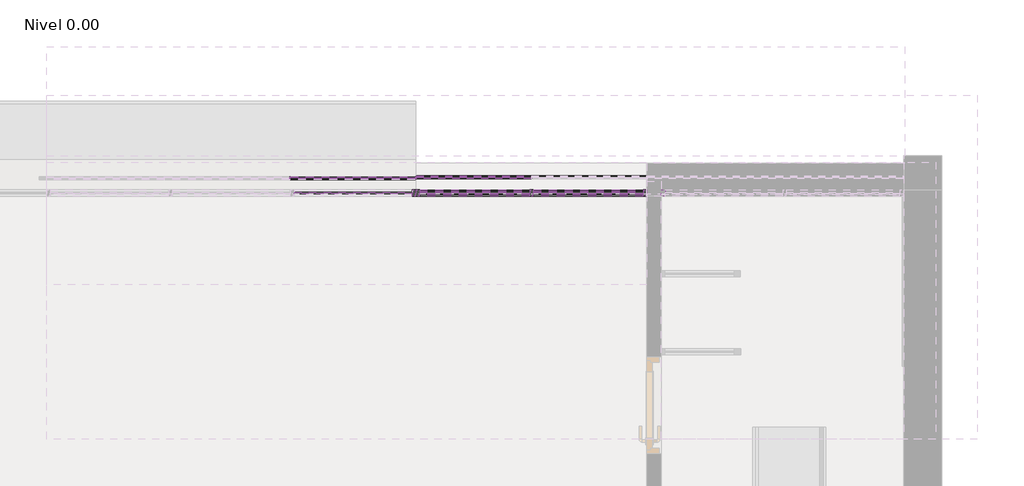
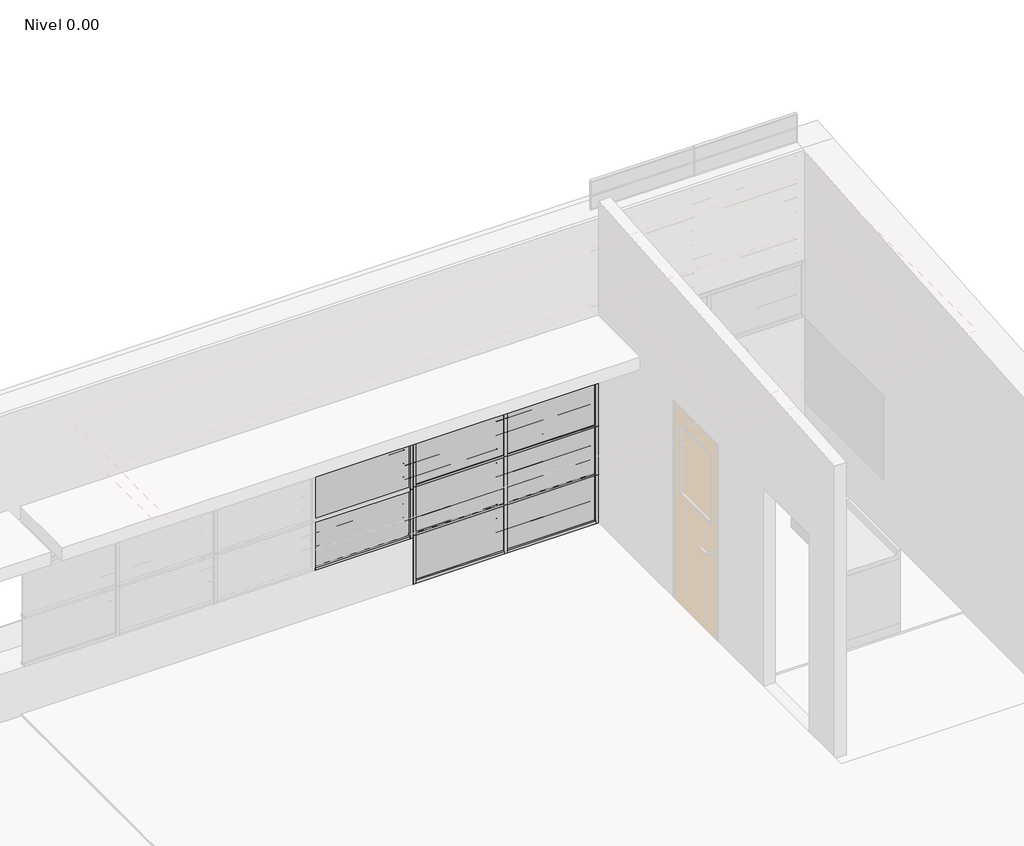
# One storey, part 24 of 27: 97 members, 36 plates.
"""IFC4 building model written with IfcOpenShell, lengths in millimetres."""

from ifc_helpers import new_model, si_unit, origin, place, context, project, spatial, transform, mapped, element, save
from components import circular_mullion_e15963ea, circular_mullion_a09c3154, l_corner_mullion_3f4548f9, l_corner_mullion_0b7e8c85, rectangular_mullion_fd73bc33, rectangular_mullion_62a8ddbd, rectangular_mullion_f7ba8490, rectangular_mullion_d4b77564, rectangular_mullion_f4ea7fa0, rectangular_mullion_bc77bd75, rectangular_mullion_9fa35bb9, rectangular_mullion_4732226b, rectangular_mullion_bccfeea3, rectangular_mullion_d538363a, rectangular_mullion_cc012177, rectangular_mullion_abfcaab6, system_panel_96c10789, system_panel_978f9d48, system_panel_c5bd44f4, system_panel_2c501d8c, system_panel_glazed_57f87d7f, system_panel_glazed_c8de9823, system_panel_glazed_2f7b6a1d, system_panel_glazed_2cc111b0

model = new_model("IFC4")

# Units and contexts
model_context = context("Model", 3, world=origin())
ifc_project = project(units=[si_unit("LENGTHUNIT", "METRE", prefix="MILLI")], contexts=[model_context])

# Site, building, storey
site = spatial("IfcSite", under=ifc_project)
building = spatial("IfcBuilding", under=site)
storey = spatial("IfcBuildingStorey", under=building, Name="Nivel 0.00", Elevation=0.0)

# Members
placement = place(None, origin())
circular_mullion_shape = circular_mullion_e15963ea(model_context)
element("IfcMember", 1, ObjectType="Circular Mullion : ARQ_HERR_16mm", at=placement, inside=storey, context=model_context, shape_type="MappedRepresentation", body=[
    mapped(circular_mullion_shape, transform((12550.7928371, 6959.4460983, 1809.0909091), x_axis=(0.0, 0.0, 1.0), y_axis=(0.0, 1.0, 0.0), z_axis=(-1.0, 0.0, 0.0))),
])
element("IfcMember", 2, ObjectType="Circular Mullion : ARQ_HERR_16mm", at=placement, inside=storey, context=model_context, shape_type="MappedRepresentation", body=[
    mapped(circular_mullion_shape, transform((12550.7928371, 6959.4460983, 1954.5454545), x_axis=(0.0, 0.0, 1.0), y_axis=(0.0, 1.0, 0.0), z_axis=(-1.0, 0.0, 0.0))),
])
circular_mullion_2_shape = circular_mullion_a09c3154(model_context)
element("IfcMember", 3, ObjectType="Circular Mullion : ARQ_HERR_16mm", at=placement, inside=storey, context=model_context, shape_type="MappedRepresentation", body=[
    mapped(circular_mullion_2_shape, transform((14531.9909831, 6959.43912, 150.0), x_axis=(0.0, 0.0, 1.0), y_axis=(0.0, -1.0, 0.0), z_axis=(1.0, 0.0, 0.0))),
])
element("IfcMember", 4, ObjectType="Circular Mullion : ARQ_HERR_16mm", at=placement, inside=storey, context=model_context, shape_type="MappedRepresentation", body=[
    mapped(circular_mullion_2_shape, transform((14531.9909831, 6959.43912, 300.0), x_axis=(0.0, 0.0, 1.0), y_axis=(0.0, -1.0, 0.0), z_axis=(1.0, 0.0, 0.0))),
])
element("IfcMember", 5, ObjectType="Circular Mullion : ARQ_HERR_16mm", at=placement, inside=storey, context=model_context, shape_type="MappedRepresentation", body=[
    mapped(circular_mullion_2_shape, transform((14531.9909831, 6959.43912, 450.0), x_axis=(0.0, 0.0, 1.0), y_axis=(0.0, -1.0, 0.0), z_axis=(1.0, 0.0, 0.0))),
])
element("IfcMember", 6, ObjectType="Circular Mullion : ARQ_HERR_16mm", at=placement, inside=storey, context=model_context, shape_type="MappedRepresentation", body=[
    mapped(circular_mullion_2_shape, transform((14531.9909831, 6959.43912, 600.0), x_axis=(0.0, 0.0, 1.0), y_axis=(0.0, -1.0, 0.0), z_axis=(1.0, 0.0, 0.0))),
])
element("IfcMember", 7, ObjectType="Circular Mullion : ARQ_HERR_16mm", at=placement, inside=storey, context=model_context, shape_type="MappedRepresentation", body=[
    mapped(circular_mullion_2_shape, transform((14531.9909831, 6959.43912, 750.0), x_axis=(0.0, 0.0, 1.0), y_axis=(0.0, -1.0, 0.0), z_axis=(1.0, 0.0, 0.0))),
])
element("IfcMember", 8, ObjectType="Circular Mullion : ARQ_HERR_16mm", at=placement, inside=storey, context=model_context, shape_type="MappedRepresentation", body=[
    mapped(circular_mullion_2_shape, transform((14531.9909831, 6959.43912, 900.0), x_axis=(0.0, 0.0, 1.0), y_axis=(0.0, -1.0, 0.0), z_axis=(1.0, 0.0, 0.0))),
])
element("IfcMember", 9, ObjectType="Circular Mullion : ARQ_HERR_16mm", at=placement, inside=storey, context=model_context, shape_type="MappedRepresentation", body=[
    mapped(circular_mullion_2_shape, transform((14531.9909831, 6959.43912, 1050.0), x_axis=(0.0, 0.0, 1.0), y_axis=(0.0, -1.0, 0.0), z_axis=(1.0, 0.0, 0.0))),
])
element("IfcMember", 10, ObjectType="Circular Mullion : ARQ_HERR_16mm", at=placement, inside=storey, context=model_context, shape_type="MappedRepresentation", body=[
    mapped(circular_mullion_2_shape, transform((14531.9909831, 6959.43912, 1200.0), x_axis=(0.0, 0.0, 1.0), y_axis=(0.0, -1.0, 0.0), z_axis=(1.0, 0.0, 0.0))),
])
element("IfcMember", 11, ObjectType="Circular Mullion : ARQ_HERR_16mm", at=placement, inside=storey, context=model_context, shape_type="MappedRepresentation", body=[
    mapped(circular_mullion_2_shape, transform((14531.9909831, 6959.43912, 1350.0), x_axis=(0.0, 0.0, 1.0), y_axis=(0.0, -1.0, 0.0), z_axis=(1.0, 0.0, 0.0))),
])
element("IfcMember", 12, ObjectType="Circular Mullion : ARQ_HERR_16mm", at=placement, inside=storey, context=model_context, shape_type="MappedRepresentation", body=[
    mapped(circular_mullion_2_shape, transform((14531.9909831, 6959.43912, 1500.0), x_axis=(0.0, 0.0, 1.0), y_axis=(0.0, -1.0, 0.0), z_axis=(1.0, 0.0, 0.0))),
])
element("IfcMember", 13, ObjectType="Circular Mullion : ARQ_HERR_16mm", at=placement, inside=storey, context=model_context, shape_type="MappedRepresentation", body=[
    mapped(circular_mullion_2_shape, transform((14531.9909831, 6959.43912, 1650.0), x_axis=(0.0, 0.0, 1.0), y_axis=(0.0, -1.0, 0.0), z_axis=(1.0, 0.0, 0.0))),
])
element("IfcMember", 14, ObjectType="Circular Mullion : ARQ_HERR_16mm", at=placement, inside=storey, context=model_context, shape_type="MappedRepresentation", body=[
    mapped(circular_mullion_2_shape, transform((14531.9909831, 6959.43912, 1800.0), x_axis=(0.0, 0.0, 1.0), y_axis=(0.0, -1.0, 0.0), z_axis=(1.0, 0.0, 0.0))),
])
element("IfcMember", 15, ObjectType="Circular Mullion : ARQ_HERR_16mm", at=placement, inside=storey, context=model_context, shape_type="MappedRepresentation", body=[
    mapped(circular_mullion_2_shape, transform((14531.9909831, 6959.43912, 1950.0), x_axis=(0.0, 0.0, 1.0), y_axis=(0.0, -1.0, 0.0), z_axis=(1.0, 0.0, 0.0))),
])
l_corner_mullion_shape = l_corner_mullion_3f4548f9(model_context)
element("IfcMember", 16, ObjectType="L Corner Mullion : ARQ_HERR_15X6mm", at=placement, inside=storey, context=model_context, shape_type="MappedRepresentation", body=[
    mapped(l_corner_mullion_shape, transform((13578.7866364, 6959.4460983, 500.0), x_axis=(0.0, 0.0, -1.0), y_axis=(0.0, 1.0, 0.0), z_axis=(1.0, 0.0, 0.0))),
])
l_corner_mullion_2_shape = l_corner_mullion_0b7e8c85(model_context)
element("IfcMember", 17, ObjectType="L Corner Mullion : ARQ_HERR_15X6mm", at=placement, inside=storey, context=model_context, shape_type="MappedRepresentation", body=[
    mapped(l_corner_mullion_2_shape, transform((14531.9909831, 6959.43912, 2100.0), x_axis=(0.0, 0.0, 1.0), y_axis=(0.0, -1.0, 0.0), z_axis=(1.0, 0.0, 0.0))),
])
element("IfcMember", 18, ObjectType="L Corner Mullion : ARQ_HERR_15X6mm", at=placement, inside=storey, context=model_context, shape_type="MappedRepresentation", body=[
    mapped(l_corner_mullion_2_shape, transform((13590.7866364, 6959.43912, 0.0), x_axis=(0.0, 0.0, -1.0), y_axis=(0.0, -1.0, 0.0), z_axis=(-1.0, 0.0, 0.0))),
])
element("IfcMember", 19, ObjectType="L Corner Mullion : ARQ_HERR_15X6mm", at=placement, inside=storey, context=model_context, shape_type="MappedRepresentation", body=[
    mapped(l_corner_mullion_2_shape, transform((14537.9909831, 6959.43912, 0.0), x_axis=(0.0, 0.0, -1.0), y_axis=(0.0, -1.0, 0.0), z_axis=(-1.0, 0.0, 0.0))),
])
rectangular_mullion_shape = rectangular_mullion_fd73bc33(model_context)
element("IfcMember", 20, ObjectType="Rectangular Mullion : ARQ_TV_MULL_50x30mm", at=placement, inside=storey, context=model_context, shape_type="MappedRepresentation", body=[
    mapped(rectangular_mullion_shape, transform((14534.9909831, 6834.4391195, 0.0), x_axis=(-1.0, 0.0, 0.0), y_axis=(0.0, 1.0, 0.0), z_axis=(0.0, 0.0, -1.0))),
])
element("IfcMember", 21, ObjectType="Rectangular Mullion : ARQ_TV_MULL_50x30mm", at=placement, inside=storey, context=model_context, shape_type="MappedRepresentation", body=[
    mapped(rectangular_mullion_shape, transform((14534.9909831, 6834.4391195, 525.0), x_axis=(-1.0, 0.0, 0.0), y_axis=(0.0, 1.0, 0.0), z_axis=(0.0, 0.0, -1.0))),
])
element("IfcMember", 22, ObjectType="Rectangular Mullion : ARQ_TV_MULL_50x30mm", at=placement, inside=storey, context=model_context, shape_type="MappedRepresentation", body=[
    mapped(rectangular_mullion_shape, transform((14534.9909831, 6834.4391195, 1050.0), x_axis=(-1.0, 0.0, 0.0), y_axis=(0.0, 1.0, 0.0), z_axis=(0.0, 0.0, -1.0))),
])
element("IfcMember", 23, ObjectType="Rectangular Mullion : ARQ_TV_MULL_50x30mm", at=placement, inside=storey, context=model_context, shape_type="MappedRepresentation", body=[
    mapped(rectangular_mullion_shape, transform((14534.9909831, 6834.4391195, 1575.0), x_axis=(-1.0, 0.0, 0.0), y_axis=(0.0, 1.0, 0.0), z_axis=(0.0, 0.0, -1.0))),
])
rectangular_mullion_2_shape = rectangular_mullion_62a8ddbd(model_context)
element("IfcMember", 24, ObjectType="Rectangular Mullion : ARQ_TV_MULL_50x30mm", at=placement, inside=storey, context=model_context, shape_type="MappedRepresentation", body=[
    mapped(rectangular_mullion_2_shape, transform((13584.7866364, 6834.4391195, 0.0), x_axis=(-1.0, 0.0, 0.0), y_axis=(0.0, 1.0, 0.0), z_axis=(0.0, 0.0, -1.0))),
])
element("IfcMember", 25, ObjectType="Rectangular Mullion : ARQ_TV_MULL_50x30mm", at=placement, inside=storey, context=model_context, shape_type="MappedRepresentation", body=[
    mapped(rectangular_mullion_2_shape, transform((13584.7866364, 6834.4391195, 525.0), x_axis=(-1.0, 0.0, 0.0), y_axis=(0.0, 1.0, 0.0), z_axis=(0.0, 0.0, -1.0))),
])
element("IfcMember", 26, ObjectType="Rectangular Mullion : ARQ_TV_MULL_50x30mm", at=placement, inside=storey, context=model_context, shape_type="MappedRepresentation", body=[
    mapped(rectangular_mullion_2_shape, transform((13584.7866364, 6834.4391195, 1050.0), x_axis=(-1.0, 0.0, 0.0), y_axis=(0.0, 1.0, 0.0), z_axis=(0.0, 0.0, -1.0))),
])
element("IfcMember", 27, ObjectType="Rectangular Mullion : ARQ_TV_MULL_50x30mm", at=placement, inside=storey, context=model_context, shape_type="MappedRepresentation", body=[
    mapped(rectangular_mullion_2_shape, transform((13584.7866364, 6834.4391195, 1575.0), x_axis=(-1.0, 0.0, 0.0), y_axis=(0.0, 1.0, 0.0), z_axis=(0.0, 0.0, -1.0))),
])
element("IfcMember", 28, ObjectType="Rectangular Mullion : ARQ_TV_MULL_50x30mm", at=placement, inside=storey, context=model_context, shape_type="MappedRepresentation", body=[
    mapped(rectangular_mullion_2_shape, transform((15485.1953298, 6834.4391195, 2100.0), x_axis=(1.0, 0.0, 0.0), y_axis=(0.0, 1.0, 0.0), z_axis=(0.0, 0.0, 1.0))),
])
element("IfcMember", 29, ObjectType="Rectangular Mullion : ARQ_TV_MULL_50x30mm", at=placement, inside=storey, context=model_context, shape_type="MappedRepresentation", body=[
    mapped(rectangular_mullion_2_shape, transform((15485.1953298, 6834.4391195, 525.0), x_axis=(1.0, 0.0, 0.0), y_axis=(0.0, 1.0, 0.0), z_axis=(0.0, 0.0, 1.0))),
])
element("IfcMember", 30, ObjectType="Rectangular Mullion : ARQ_TV_MULL_50x30mm", at=placement, inside=storey, context=model_context, shape_type="MappedRepresentation", body=[
    mapped(rectangular_mullion_2_shape, transform((15485.1953298, 6834.4391195, 1050.0), x_axis=(1.0, 0.0, 0.0), y_axis=(0.0, 1.0, 0.0), z_axis=(0.0, 0.0, 1.0))),
])
element("IfcMember", 31, ObjectType="Rectangular Mullion : ARQ_TV_MULL_50x30mm", at=placement, inside=storey, context=model_context, shape_type="MappedRepresentation", body=[
    mapped(rectangular_mullion_2_shape, transform((15485.1953298, 6834.4391195, 1575.0), x_axis=(1.0, 0.0, 0.0), y_axis=(0.0, 1.0, 0.0), z_axis=(0.0, 0.0, 1.0))),
])
rectangular_mullion_3_shape = rectangular_mullion_f7ba8490(model_context)
element("IfcMember", 32, ObjectType="Rectangular Mullion : ARQ_TV_MULL_50x30mm", at=placement, inside=storey, context=model_context, shape_type="MappedRepresentation", body=[
    mapped(rectangular_mullion_3_shape, transform((13584.7866364, 6834.4391195, 2100.0), x_axis=(1.0, 0.0, 0.0), y_axis=(0.0, 1.0, 0.0), z_axis=(0.0, 0.0, 1.0))),
])
element("IfcMember", 33, ObjectType="Rectangular Mullion : ARQ_TV_MULL_50x30mm", at=placement, inside=storey, context=model_context, shape_type="MappedRepresentation", body=[
    mapped(rectangular_mullion_3_shape, transform((13584.7866364, 6834.4391195, 1033.3333333), x_axis=(1.0, 0.0, 0.0), y_axis=(0.0, 1.0, 0.0), z_axis=(0.0, 0.0, 1.0))),
])
element("IfcMember", 34, ObjectType="Rectangular Mullion : ARQ_TV_MULL_50x30mm", at=placement, inside=storey, context=model_context, shape_type="MappedRepresentation", body=[
    mapped(rectangular_mullion_3_shape, transform((13584.7866364, 6834.4391195, 1566.6666667), x_axis=(1.0, 0.0, 0.0), y_axis=(0.0, 1.0, 0.0), z_axis=(0.0, 0.0, 1.0))),
])
rectangular_mullion_4_shape = rectangular_mullion_d4b77564(model_context)
element("IfcMember", 35, ObjectType="Rectangular Mullion : ARQ_TV_MULL_50x30mm", at=placement, inside=storey, context=model_context, shape_type="MappedRepresentation", body=[
    mapped(rectangular_mullion_4_shape, transform((13554.7866364, 6834.4391195, 500.0), x_axis=(0.0, 0.0, -1.0), y_axis=(0.0, 1.0, 0.0), z_axis=(1.0, 0.0, 0.0))),
])
rectangular_mullion_5_shape = rectangular_mullion_f4ea7fa0(model_context)
element("IfcMember", 36, ObjectType="Rectangular Mullion : ARQ_TV_MULL_50x30mm", at=placement, inside=storey, context=model_context, shape_type="MappedRepresentation", body=[
    mapped(rectangular_mullion_5_shape, transform((15605.1953298, 6834.4391195, 2100.0), x_axis=(-1.0, 0.0, 0.0), y_axis=(0.0, -1.0, 0.0), z_axis=(0.0, 0.0, 1.0))),
])
rectangular_mullion_6_shape = rectangular_mullion_bc77bd75(model_context)
element("IfcMember", 37, ObjectType="Rectangular Mullion : ARQ_HERR_15X6mm", at=placement, inside=storey, context=model_context, shape_type="MappedRepresentation", body=[
    mapped(rectangular_mullion_6_shape, transform((12547.7928371, 6959.4460983, 500.0), x_axis=(-1.0, 0.0, 0.0), y_axis=(0.0, 1.0, 0.0), z_axis=(0.0, 0.0, -1.0))),
])
element("IfcMember", 38, ObjectType="Rectangular Mullion : ARQ_HERR_15X6mm", at=placement, inside=storey, context=model_context, shape_type="MappedRepresentation", body=[
    mapped(rectangular_mullion_6_shape, transform((12547.7928371, 6959.4460983, 645.4545455), x_axis=(-1.0, 0.0, 0.0), y_axis=(0.0, 1.0, 0.0), z_axis=(0.0, 0.0, -1.0))),
])
element("IfcMember", 39, ObjectType="Rectangular Mullion : ARQ_HERR_15X6mm", at=placement, inside=storey, context=model_context, shape_type="MappedRepresentation", body=[
    mapped(rectangular_mullion_6_shape, transform((12547.7928371, 6959.4460983, 790.9090909), x_axis=(-1.0, 0.0, 0.0), y_axis=(0.0, 1.0, 0.0), z_axis=(0.0, 0.0, -1.0))),
])
element("IfcMember", 40, ObjectType="Rectangular Mullion : ARQ_HERR_15X6mm", at=placement, inside=storey, context=model_context, shape_type="MappedRepresentation", body=[
    mapped(rectangular_mullion_6_shape, transform((12547.7928371, 6959.4460983, 936.3636364), x_axis=(-1.0, 0.0, 0.0), y_axis=(0.0, 1.0, 0.0), z_axis=(0.0, 0.0, -1.0))),
])
element("IfcMember", 41, ObjectType="Rectangular Mullion : ARQ_HERR_15X6mm", at=placement, inside=storey, context=model_context, shape_type="MappedRepresentation", body=[
    mapped(rectangular_mullion_6_shape, transform((12547.7928371, 6959.4460983, 1081.8181818), x_axis=(-1.0, 0.0, 0.0), y_axis=(0.0, 1.0, 0.0), z_axis=(0.0, 0.0, -1.0))),
])
element("IfcMember", 42, ObjectType="Rectangular Mullion : ARQ_HERR_15X6mm", at=placement, inside=storey, context=model_context, shape_type="MappedRepresentation", body=[
    mapped(rectangular_mullion_6_shape, transform((12547.7928371, 6959.4460983, 1227.2727273), x_axis=(-1.0, 0.0, 0.0), y_axis=(0.0, 1.0, 0.0), z_axis=(0.0, 0.0, -1.0))),
])
element("IfcMember", 43, ObjectType="Rectangular Mullion : ARQ_HERR_15X6mm", at=placement, inside=storey, context=model_context, shape_type="MappedRepresentation", body=[
    mapped(rectangular_mullion_6_shape, transform((12547.7928371, 6959.4460983, 1372.7272727), x_axis=(-1.0, 0.0, 0.0), y_axis=(0.0, 1.0, 0.0), z_axis=(0.0, 0.0, -1.0))),
])
element("IfcMember", 44, ObjectType="Rectangular Mullion : ARQ_HERR_15X6mm", at=placement, inside=storey, context=model_context, shape_type="MappedRepresentation", body=[
    mapped(rectangular_mullion_6_shape, transform((12547.7928371, 6959.4460983, 1518.1818182), x_axis=(-1.0, 0.0, 0.0), y_axis=(0.0, 1.0, 0.0), z_axis=(0.0, 0.0, -1.0))),
])
element("IfcMember", 45, ObjectType="Rectangular Mullion : ARQ_HERR_15X6mm", at=placement, inside=storey, context=model_context, shape_type="MappedRepresentation", body=[
    mapped(rectangular_mullion_6_shape, transform((12547.7928371, 6959.4460983, 1663.6363636), x_axis=(-1.0, 0.0, 0.0), y_axis=(0.0, 1.0, 0.0), z_axis=(0.0, 0.0, -1.0))),
])
element("IfcMember", 46, ObjectType="Rectangular Mullion : ARQ_HERR_15X6mm", at=placement, inside=storey, context=model_context, shape_type="MappedRepresentation", body=[
    mapped(rectangular_mullion_6_shape, transform((12547.7928371, 6959.4460983, 1809.0909091), x_axis=(-1.0, 0.0, 0.0), y_axis=(0.0, 1.0, 0.0), z_axis=(0.0, 0.0, -1.0))),
])
element("IfcMember", 47, ObjectType="Rectangular Mullion : ARQ_HERR_15X6mm", at=placement, inside=storey, context=model_context, shape_type="MappedRepresentation", body=[
    mapped(rectangular_mullion_6_shape, transform((12547.7928371, 6959.4460983, 1954.5454545), x_axis=(-1.0, 0.0, 0.0), y_axis=(0.0, 1.0, 0.0), z_axis=(0.0, 0.0, -1.0))),
])
rectangular_mullion_7_shape = rectangular_mullion_9fa35bb9(model_context)
element("IfcMember", 48, ObjectType="Rectangular Mullion : ARQ_HERR_15X6mm", at=placement, inside=storey, context=model_context, shape_type="MappedRepresentation", body=[
    mapped(rectangular_mullion_7_shape, transform((13584.7866364, 6959.4460983, 2100.0), x_axis=(1.0, 0.0, 0.0), y_axis=(0.0, 1.0, 0.0), z_axis=(0.0, 0.0, 1.0))),
])
element("IfcMember", 49, ObjectType="Rectangular Mullion : ARQ_HERR_15X6mm", at=placement, inside=storey, context=model_context, shape_type="MappedRepresentation", body=[
    mapped(rectangular_mullion_7_shape, transform((13584.7866364, 6959.4460983, 645.4545455), x_axis=(1.0, 0.0, 0.0), y_axis=(0.0, 1.0, 0.0), z_axis=(0.0, 0.0, 1.0))),
])
element("IfcMember", 50, ObjectType="Rectangular Mullion : ARQ_HERR_15X6mm", at=placement, inside=storey, context=model_context, shape_type="MappedRepresentation", body=[
    mapped(rectangular_mullion_7_shape, transform((13584.7866364, 6959.4460983, 790.9090909), x_axis=(1.0, 0.0, 0.0), y_axis=(0.0, 1.0, 0.0), z_axis=(0.0, 0.0, 1.0))),
])
element("IfcMember", 51, ObjectType="Rectangular Mullion : ARQ_HERR_15X6mm", at=placement, inside=storey, context=model_context, shape_type="MappedRepresentation", body=[
    mapped(rectangular_mullion_7_shape, transform((13584.7866364, 6959.4460983, 936.3636364), x_axis=(1.0, 0.0, 0.0), y_axis=(0.0, 1.0, 0.0), z_axis=(0.0, 0.0, 1.0))),
])
element("IfcMember", 52, ObjectType="Rectangular Mullion : ARQ_HERR_15X6mm", at=placement, inside=storey, context=model_context, shape_type="MappedRepresentation", body=[
    mapped(rectangular_mullion_7_shape, transform((13584.7866364, 6959.4460983, 1081.8181818), x_axis=(1.0, 0.0, 0.0), y_axis=(0.0, 1.0, 0.0), z_axis=(0.0, 0.0, 1.0))),
])
element("IfcMember", 53, ObjectType="Rectangular Mullion : ARQ_HERR_15X6mm", at=placement, inside=storey, context=model_context, shape_type="MappedRepresentation", body=[
    mapped(rectangular_mullion_7_shape, transform((13584.7866364, 6959.4460983, 1227.2727273), x_axis=(1.0, 0.0, 0.0), y_axis=(0.0, 1.0, 0.0), z_axis=(0.0, 0.0, 1.0))),
])
element("IfcMember", 54, ObjectType="Rectangular Mullion : ARQ_HERR_15X6mm", at=placement, inside=storey, context=model_context, shape_type="MappedRepresentation", body=[
    mapped(rectangular_mullion_7_shape, transform((13584.7866364, 6959.4460983, 1372.7272727), x_axis=(1.0, 0.0, 0.0), y_axis=(0.0, 1.0, 0.0), z_axis=(0.0, 0.0, 1.0))),
])
element("IfcMember", 55, ObjectType="Rectangular Mullion : ARQ_HERR_15X6mm", at=placement, inside=storey, context=model_context, shape_type="MappedRepresentation", body=[
    mapped(rectangular_mullion_7_shape, transform((13584.7866364, 6959.4460983, 1518.1818182), x_axis=(1.0, 0.0, 0.0), y_axis=(0.0, 1.0, 0.0), z_axis=(0.0, 0.0, 1.0))),
])
element("IfcMember", 56, ObjectType="Rectangular Mullion : ARQ_HERR_15X6mm", at=placement, inside=storey, context=model_context, shape_type="MappedRepresentation", body=[
    mapped(rectangular_mullion_7_shape, transform((13584.7866364, 6959.4460983, 1663.6363636), x_axis=(1.0, 0.0, 0.0), y_axis=(0.0, 1.0, 0.0), z_axis=(0.0, 0.0, 1.0))),
])
element("IfcMember", 57, ObjectType="Rectangular Mullion : ARQ_HERR_15X6mm", at=placement, inside=storey, context=model_context, shape_type="MappedRepresentation", body=[
    mapped(rectangular_mullion_7_shape, transform((13584.7866364, 6959.4460983, 1809.0909091), x_axis=(1.0, 0.0, 0.0), y_axis=(0.0, 1.0, 0.0), z_axis=(0.0, 0.0, 1.0))),
])
element("IfcMember", 58, ObjectType="Rectangular Mullion : ARQ_HERR_15X6mm", at=placement, inside=storey, context=model_context, shape_type="MappedRepresentation", body=[
    mapped(rectangular_mullion_7_shape, transform((13584.7866364, 6959.4460983, 1954.5454545), x_axis=(1.0, 0.0, 0.0), y_axis=(0.0, 1.0, 0.0), z_axis=(0.0, 0.0, 1.0))),
])
rectangular_mullion_8_shape = rectangular_mullion_4732226b(model_context)
element("IfcMember", 59, ObjectType="Rectangular Mullion : ARQ_HERR_15X6mm", at=placement, inside=storey, context=model_context, shape_type="MappedRepresentation", body=[
    mapped(rectangular_mullion_8_shape, transform((14534.9909831, 6959.43912, 0.0), x_axis=(1.0, 0.0, 0.0), y_axis=(0.0, -1.0, 0.0), z_axis=(0.0, 0.0, -1.0))),
])
element("IfcMember", 60, ObjectType="Rectangular Mullion : ARQ_HERR_15X6mm", at=placement, inside=storey, context=model_context, shape_type="MappedRepresentation", body=[
    mapped(rectangular_mullion_8_shape, transform((14534.9909831, 6959.43912, 150.0), x_axis=(1.0, 0.0, 0.0), y_axis=(0.0, -1.0, 0.0), z_axis=(0.0, 0.0, -1.0))),
])
element("IfcMember", 61, ObjectType="Rectangular Mullion : ARQ_HERR_15X6mm", at=placement, inside=storey, context=model_context, shape_type="MappedRepresentation", body=[
    mapped(rectangular_mullion_8_shape, transform((14534.9909831, 6959.43912, 300.0), x_axis=(1.0, 0.0, 0.0), y_axis=(0.0, -1.0, 0.0), z_axis=(0.0, 0.0, -1.0))),
])
element("IfcMember", 62, ObjectType="Rectangular Mullion : ARQ_HERR_15X6mm", at=placement, inside=storey, context=model_context, shape_type="MappedRepresentation", body=[
    mapped(rectangular_mullion_8_shape, transform((14534.9909831, 6959.43912, 450.0), x_axis=(1.0, 0.0, 0.0), y_axis=(0.0, -1.0, 0.0), z_axis=(0.0, 0.0, -1.0))),
])
element("IfcMember", 63, ObjectType="Rectangular Mullion : ARQ_HERR_15X6mm", at=placement, inside=storey, context=model_context, shape_type="MappedRepresentation", body=[
    mapped(rectangular_mullion_8_shape, transform((14534.9909831, 6959.43912, 600.0), x_axis=(1.0, 0.0, 0.0), y_axis=(0.0, -1.0, 0.0), z_axis=(0.0, 0.0, -1.0))),
])
element("IfcMember", 64, ObjectType="Rectangular Mullion : ARQ_HERR_15X6mm", at=placement, inside=storey, context=model_context, shape_type="MappedRepresentation", body=[
    mapped(rectangular_mullion_8_shape, transform((14534.9909831, 6959.43912, 750.0), x_axis=(1.0, 0.0, 0.0), y_axis=(0.0, -1.0, 0.0), z_axis=(0.0, 0.0, -1.0))),
])
element("IfcMember", 65, ObjectType="Rectangular Mullion : ARQ_HERR_15X6mm", at=placement, inside=storey, context=model_context, shape_type="MappedRepresentation", body=[
    mapped(rectangular_mullion_8_shape, transform((14534.9909831, 6959.43912, 900.0), x_axis=(1.0, 0.0, 0.0), y_axis=(0.0, -1.0, 0.0), z_axis=(0.0, 0.0, -1.0))),
])
element("IfcMember", 66, ObjectType="Rectangular Mullion : ARQ_HERR_15X6mm", at=placement, inside=storey, context=model_context, shape_type="MappedRepresentation", body=[
    mapped(rectangular_mullion_8_shape, transform((14534.9909831, 6959.43912, 1050.0), x_axis=(1.0, 0.0, 0.0), y_axis=(0.0, -1.0, 0.0), z_axis=(0.0, 0.0, -1.0))),
])
element("IfcMember", 67, ObjectType="Rectangular Mullion : ARQ_HERR_15X6mm", at=placement, inside=storey, context=model_context, shape_type="MappedRepresentation", body=[
    mapped(rectangular_mullion_8_shape, transform((14534.9909831, 6959.43912, 1200.0), x_axis=(1.0, 0.0, 0.0), y_axis=(0.0, -1.0, 0.0), z_axis=(0.0, 0.0, -1.0))),
])
element("IfcMember", 68, ObjectType="Rectangular Mullion : ARQ_HERR_15X6mm", at=placement, inside=storey, context=model_context, shape_type="MappedRepresentation", body=[
    mapped(rectangular_mullion_8_shape, transform((14534.9909831, 6959.43912, 1350.0), x_axis=(1.0, 0.0, 0.0), y_axis=(0.0, -1.0, 0.0), z_axis=(0.0, 0.0, -1.0))),
])
element("IfcMember", 69, ObjectType="Rectangular Mullion : ARQ_HERR_15X6mm", at=placement, inside=storey, context=model_context, shape_type="MappedRepresentation", body=[
    mapped(rectangular_mullion_8_shape, transform((14534.9909831, 6959.43912, 1500.0), x_axis=(1.0, 0.0, 0.0), y_axis=(0.0, -1.0, 0.0), z_axis=(0.0, 0.0, -1.0))),
])
element("IfcMember", 70, ObjectType="Rectangular Mullion : ARQ_HERR_15X6mm", at=placement, inside=storey, context=model_context, shape_type="MappedRepresentation", body=[
    mapped(rectangular_mullion_8_shape, transform((14534.9909831, 6959.43912, 1650.0), x_axis=(1.0, 0.0, 0.0), y_axis=(0.0, -1.0, 0.0), z_axis=(0.0, 0.0, -1.0))),
])
element("IfcMember", 71, ObjectType="Rectangular Mullion : ARQ_HERR_15X6mm", at=placement, inside=storey, context=model_context, shape_type="MappedRepresentation", body=[
    mapped(rectangular_mullion_8_shape, transform((14534.9909831, 6959.43912, 1800.0), x_axis=(1.0, 0.0, 0.0), y_axis=(0.0, -1.0, 0.0), z_axis=(0.0, 0.0, -1.0))),
])
element("IfcMember", 72, ObjectType="Rectangular Mullion : ARQ_HERR_15X6mm", at=placement, inside=storey, context=model_context, shape_type="MappedRepresentation", body=[
    mapped(rectangular_mullion_8_shape, transform((14534.9909831, 6959.43912, 1950.0), x_axis=(1.0, 0.0, 0.0), y_axis=(0.0, -1.0, 0.0), z_axis=(0.0, 0.0, -1.0))),
])
rectangular_mullion_9_shape = rectangular_mullion_bccfeea3(model_context)
element("IfcMember", 73, ObjectType="Rectangular Mullion : ARQ_HERR_15X6mm", at=placement, inside=storey, context=model_context, shape_type="MappedRepresentation", body=[
    mapped(rectangular_mullion_9_shape, transform((13584.7866364, 6959.43912, 2100.0), x_axis=(-1.0, 0.0, 0.0), y_axis=(0.0, -1.0, 0.0), z_axis=(0.0, 0.0, 1.0))),
])
element("IfcMember", 74, ObjectType="Rectangular Mullion : ARQ_HERR_15X6mm", at=placement, inside=storey, context=model_context, shape_type="MappedRepresentation", body=[
    mapped(rectangular_mullion_9_shape, transform((13584.7866364, 6959.43912, 150.0), x_axis=(-1.0, 0.0, 0.0), y_axis=(0.0, -1.0, 0.0), z_axis=(0.0, 0.0, 1.0))),
])
element("IfcMember", 75, ObjectType="Rectangular Mullion : ARQ_HERR_15X6mm", at=placement, inside=storey, context=model_context, shape_type="MappedRepresentation", body=[
    mapped(rectangular_mullion_9_shape, transform((13584.7866364, 6959.43912, 300.0), x_axis=(-1.0, 0.0, 0.0), y_axis=(0.0, -1.0, 0.0), z_axis=(0.0, 0.0, 1.0))),
])
element("IfcMember", 76, ObjectType="Rectangular Mullion : ARQ_HERR_15X6mm", at=placement, inside=storey, context=model_context, shape_type="MappedRepresentation", body=[
    mapped(rectangular_mullion_9_shape, transform((13584.7866364, 6959.43912, 450.0), x_axis=(-1.0, 0.0, 0.0), y_axis=(0.0, -1.0, 0.0), z_axis=(0.0, 0.0, 1.0))),
])
element("IfcMember", 77, ObjectType="Rectangular Mullion : ARQ_HERR_15X6mm", at=placement, inside=storey, context=model_context, shape_type="MappedRepresentation", body=[
    mapped(rectangular_mullion_9_shape, transform((13584.7866364, 6959.43912, 600.0), x_axis=(-1.0, 0.0, 0.0), y_axis=(0.0, -1.0, 0.0), z_axis=(0.0, 0.0, 1.0))),
])
element("IfcMember", 78, ObjectType="Rectangular Mullion : ARQ_HERR_15X6mm", at=placement, inside=storey, context=model_context, shape_type="MappedRepresentation", body=[
    mapped(rectangular_mullion_9_shape, transform((13584.7866364, 6959.43912, 750.0), x_axis=(-1.0, 0.0, 0.0), y_axis=(0.0, -1.0, 0.0), z_axis=(0.0, 0.0, 1.0))),
])
element("IfcMember", 79, ObjectType="Rectangular Mullion : ARQ_HERR_15X6mm", at=placement, inside=storey, context=model_context, shape_type="MappedRepresentation", body=[
    mapped(rectangular_mullion_9_shape, transform((13584.7866364, 6959.43912, 900.0), x_axis=(-1.0, 0.0, 0.0), y_axis=(0.0, -1.0, 0.0), z_axis=(0.0, 0.0, 1.0))),
])
element("IfcMember", 80, ObjectType="Rectangular Mullion : ARQ_HERR_15X6mm", at=placement, inside=storey, context=model_context, shape_type="MappedRepresentation", body=[
    mapped(rectangular_mullion_9_shape, transform((13584.7866364, 6959.43912, 1050.0), x_axis=(-1.0, 0.0, 0.0), y_axis=(0.0, -1.0, 0.0), z_axis=(0.0, 0.0, 1.0))),
])
element("IfcMember", 81, ObjectType="Rectangular Mullion : ARQ_HERR_15X6mm", at=placement, inside=storey, context=model_context, shape_type="MappedRepresentation", body=[
    mapped(rectangular_mullion_9_shape, transform((13584.7866364, 6959.43912, 1200.0), x_axis=(-1.0, 0.0, 0.0), y_axis=(0.0, -1.0, 0.0), z_axis=(0.0, 0.0, 1.0))),
])
element("IfcMember", 82, ObjectType="Rectangular Mullion : ARQ_HERR_15X6mm", at=placement, inside=storey, context=model_context, shape_type="MappedRepresentation", body=[
    mapped(rectangular_mullion_9_shape, transform((13584.7866364, 6959.43912, 1350.0), x_axis=(-1.0, 0.0, 0.0), y_axis=(0.0, -1.0, 0.0), z_axis=(0.0, 0.0, 1.0))),
])
element("IfcMember", 83, ObjectType="Rectangular Mullion : ARQ_HERR_15X6mm", at=placement, inside=storey, context=model_context, shape_type="MappedRepresentation", body=[
    mapped(rectangular_mullion_9_shape, transform((13584.7866364, 6959.43912, 1500.0), x_axis=(-1.0, 0.0, 0.0), y_axis=(0.0, -1.0, 0.0), z_axis=(0.0, 0.0, 1.0))),
])
element("IfcMember", 84, ObjectType="Rectangular Mullion : ARQ_HERR_15X6mm", at=placement, inside=storey, context=model_context, shape_type="MappedRepresentation", body=[
    mapped(rectangular_mullion_9_shape, transform((13584.7866364, 6959.43912, 1650.0), x_axis=(-1.0, 0.0, 0.0), y_axis=(0.0, -1.0, 0.0), z_axis=(0.0, 0.0, 1.0))),
])
element("IfcMember", 85, ObjectType="Rectangular Mullion : ARQ_HERR_15X6mm", at=placement, inside=storey, context=model_context, shape_type="MappedRepresentation", body=[
    mapped(rectangular_mullion_9_shape, transform((13584.7866364, 6959.43912, 1800.0), x_axis=(-1.0, 0.0, 0.0), y_axis=(0.0, -1.0, 0.0), z_axis=(0.0, 0.0, 1.0))),
])
element("IfcMember", 86, ObjectType="Rectangular Mullion : ARQ_HERR_15X6mm", at=placement, inside=storey, context=model_context, shape_type="MappedRepresentation", body=[
    mapped(rectangular_mullion_9_shape, transform((13584.7866364, 6959.43912, 1950.0), x_axis=(-1.0, 0.0, 0.0), y_axis=(0.0, -1.0, 0.0), z_axis=(0.0, 0.0, 1.0))),
])
rectangular_mullion_10_shape = rectangular_mullion_d538363a(model_context)
element("IfcMember", 87, ObjectType="Rectangular Mullion : ARQ_TV_MULL_50x30mm", at=placement, inside=storey, context=model_context, shape_type="MappedRepresentation", body=[
    mapped(rectangular_mullion_10_shape, transform((13614.7866364, 6834.4391195, 2100.0), x_axis=(0.0, 0.0, 1.0), y_axis=(0.0, 1.0, 0.0), z_axis=(-1.0, 0.0, 0.0))),
])
element("IfcMember", 88, ObjectType="Rectangular Mullion : ARQ_TV_MULL_50x30mm", at=placement, inside=storey, context=model_context, shape_type="MappedRepresentation", body=[
    mapped(rectangular_mullion_10_shape, transform((14549.9909831, 6834.4391195, 2100.0), x_axis=(0.0, 0.0, 1.0), y_axis=(0.0, 1.0, 0.0), z_axis=(-1.0, 0.0, 0.0))),
])
element("IfcMember", 89, ObjectType="Rectangular Mullion : ARQ_TV_MULL_50x30mm", at=placement, inside=storey, context=model_context, shape_type="MappedRepresentation", body=[
    mapped(rectangular_mullion_10_shape, transform((15455.1953298, 6834.4391195, 0.0), x_axis=(0.0, 0.0, -1.0), y_axis=(0.0, 1.0, 0.0), z_axis=(1.0, 0.0, 0.0))),
])
element("IfcMember", 90, ObjectType="Rectangular Mullion : ARQ_TV_MULL_50x30mm", at=placement, inside=storey, context=model_context, shape_type="MappedRepresentation", body=[
    mapped(rectangular_mullion_10_shape, transform((14519.9909831, 6834.4391195, 0.0), x_axis=(0.0, 0.0, -1.0), y_axis=(0.0, 1.0, 0.0), z_axis=(1.0, 0.0, 0.0))),
])
rectangular_mullion_11_shape = rectangular_mullion_cc012177(model_context)
element("IfcMember", 91, ObjectType="Rectangular Mullion : ARQ_TV_MULL_30x20mm", at=placement, inside=storey, context=model_context, shape_type="MappedRepresentation", body=[
    mapped(rectangular_mullion_11_shape, transform((14549.9909831, 6834.4391195, 525.0), x_axis=(0.0, 0.0, 1.0), y_axis=(0.0, 1.0, 0.0), z_axis=(-1.0, 0.0, 0.0))),
])
element("IfcMember", 92, ObjectType="Rectangular Mullion : ARQ_TV_MULL_30x20mm", at=placement, inside=storey, context=model_context, shape_type="MappedRepresentation", body=[
    mapped(rectangular_mullion_11_shape, transform((13614.7866364, 6834.4391195, 525.0), x_axis=(0.0, 0.0, 1.0), y_axis=(0.0, 1.0, 0.0), z_axis=(-1.0, 0.0, 0.0))),
])
element("IfcMember", 93, ObjectType="Rectangular Mullion : ARQ_TV_MULL_30x20mm", at=placement, inside=storey, context=model_context, shape_type="MappedRepresentation", body=[
    mapped(rectangular_mullion_11_shape, transform((14549.9909831, 6834.4391195, 1050.0), x_axis=(0.0, 0.0, 1.0), y_axis=(0.0, 1.0, 0.0), z_axis=(-1.0, 0.0, 0.0))),
])
element("IfcMember", 94, ObjectType="Rectangular Mullion : ARQ_TV_MULL_30x20mm", at=placement, inside=storey, context=model_context, shape_type="MappedRepresentation", body=[
    mapped(rectangular_mullion_11_shape, transform((13614.7866364, 6834.4391195, 1050.0), x_axis=(0.0, 0.0, 1.0), y_axis=(0.0, 1.0, 0.0), z_axis=(-1.0, 0.0, 0.0))),
])
element("IfcMember", 95, ObjectType="Rectangular Mullion : ARQ_TV_MULL_30x20mm", at=placement, inside=storey, context=model_context, shape_type="MappedRepresentation", body=[
    mapped(rectangular_mullion_11_shape, transform((14549.9909831, 6834.4391195, 1575.0), x_axis=(0.0, 0.0, 1.0), y_axis=(0.0, 1.0, 0.0), z_axis=(-1.0, 0.0, 0.0))),
])
element("IfcMember", 96, ObjectType="Rectangular Mullion : ARQ_TV_MULL_30x20mm", at=placement, inside=storey, context=model_context, shape_type="MappedRepresentation", body=[
    mapped(rectangular_mullion_11_shape, transform((13614.7866364, 6834.4391195, 1575.0), x_axis=(0.0, 0.0, 1.0), y_axis=(0.0, 1.0, 0.0), z_axis=(-1.0, 0.0, 0.0))),
])
rectangular_mullion_12_shape = rectangular_mullion_abfcaab6(model_context)
element("IfcMember", 97, ObjectType="Rectangular Mullion : ARQ_TV_MULL_50x30mm", at=placement, inside=storey, context=model_context, shape_type="MappedRepresentation", body=[
    mapped(rectangular_mullion_12_shape, transform((15635.1953298, 6834.4391195, 1500.0), x_axis=(0.0, 0.0, -1.0), y_axis=(0.0, -1.0, 0.0), z_axis=(-1.0, 0.0, 0.0))),
])

# Plates
system_panel_shape = system_panel_96c10789(model_context)
element("IfcPlate", 98, ObjectType="System Panel : VACÍO", at=placement, inside=storey, context=model_context, shape_type="MappedRepresentation", body=[
    mapped(system_panel_shape, transform((13064.7897368, 6959.4460983, 506.0), x_axis=(-1.0, 0.0, 0.0), y_axis=(0.0, -1.0, 0.0), z_axis=(0.0, 0.0, 1.0))),
])
element("IfcPlate", 99, ObjectType="System Panel : VACÍO", at=placement, inside=storey, context=model_context, shape_type="MappedRepresentation", body=[
    mapped(system_panel_shape, transform((13064.7897368, 6959.4460983, 1962.5454545), x_axis=(-1.0, 0.0, 0.0), y_axis=(0.0, -1.0, 0.0), z_axis=(0.0, 0.0, 1.0))),
])
system_panel_2_shape = system_panel_978f9d48(model_context)
element("IfcPlate", 100, ObjectType="System Panel : VACÍO", at=placement, inside=storey, context=model_context, shape_type="MappedRepresentation", body=[
    mapped(system_panel_2_shape, transform((13064.7897368, 6959.4460983, 653.4545455), x_axis=(-1.0, 0.0, 0.0), y_axis=(0.0, -1.0, 0.0), z_axis=(0.0, 0.0, 1.0))),
])
element("IfcPlate", 101, ObjectType="System Panel : VACÍO", at=placement, inside=storey, context=model_context, shape_type="MappedRepresentation", body=[
    mapped(system_panel_2_shape, transform((13064.7897368, 6959.4460983, 798.9090909), x_axis=(-1.0, 0.0, 0.0), y_axis=(0.0, -1.0, 0.0), z_axis=(0.0, 0.0, 1.0))),
])
element("IfcPlate", 102, ObjectType="System Panel : VACÍO", at=placement, inside=storey, context=model_context, shape_type="MappedRepresentation", body=[
    mapped(system_panel_2_shape, transform((13064.7897368, 6959.4460983, 944.3636364), x_axis=(-1.0, 0.0, 0.0), y_axis=(0.0, -1.0, 0.0), z_axis=(0.0, 0.0, 1.0))),
])
element("IfcPlate", 103, ObjectType="System Panel : VACÍO", at=placement, inside=storey, context=model_context, shape_type="MappedRepresentation", body=[
    mapped(system_panel_2_shape, transform((13064.7897368, 6959.4460983, 1089.8181818), x_axis=(-1.0, 0.0, 0.0), y_axis=(0.0, -1.0, 0.0), z_axis=(0.0, 0.0, 1.0))),
])
element("IfcPlate", 104, ObjectType="System Panel : VACÍO", at=placement, inside=storey, context=model_context, shape_type="MappedRepresentation", body=[
    mapped(system_panel_2_shape, transform((13064.7897368, 6959.4460983, 1235.2727273), x_axis=(-1.0, 0.0, 0.0), y_axis=(0.0, -1.0, 0.0), z_axis=(0.0, 0.0, 1.0))),
])
element("IfcPlate", 105, ObjectType="System Panel : VACÍO", at=placement, inside=storey, context=model_context, shape_type="MappedRepresentation", body=[
    mapped(system_panel_2_shape, transform((13064.7897368, 6959.4460983, 1380.7272727), x_axis=(-1.0, 0.0, 0.0), y_axis=(0.0, -1.0, 0.0), z_axis=(0.0, 0.0, 1.0))),
])
element("IfcPlate", 106, ObjectType="System Panel : VACÍO", at=placement, inside=storey, context=model_context, shape_type="MappedRepresentation", body=[
    mapped(system_panel_2_shape, transform((13064.7897368, 6959.4460983, 1526.1818182), x_axis=(-1.0, 0.0, 0.0), y_axis=(0.0, -1.0, 0.0), z_axis=(0.0, 0.0, 1.0))),
])
element("IfcPlate", 107, ObjectType="System Panel : VACÍO", at=placement, inside=storey, context=model_context, shape_type="MappedRepresentation", body=[
    mapped(system_panel_2_shape, transform((13064.7897368, 6959.4460983, 1671.6363636), x_axis=(-1.0, 0.0, 0.0), y_axis=(0.0, -1.0, 0.0), z_axis=(0.0, 0.0, 1.0))),
])
element("IfcPlate", 108, ObjectType="System Panel : VACÍO", at=placement, inside=storey, context=model_context, shape_type="MappedRepresentation", body=[
    mapped(system_panel_2_shape, transform((13064.7897368, 6959.4460983, 1817.0909091), x_axis=(-1.0, 0.0, 0.0), y_axis=(0.0, -1.0, 0.0), z_axis=(0.0, 0.0, 1.0))),
])
system_panel_3_shape = system_panel_c5bd44f4(model_context)
element("IfcPlate", 109, ObjectType="System Panel : VACÍO", at=placement, inside=storey, context=model_context, shape_type="MappedRepresentation", body=[
    mapped(system_panel_3_shape, transform((14061.3888098, 6959.43912, 6.0), x_axis=(1.0, 0.0, 0.0), y_axis=(0.0, 1.0, 0.0), z_axis=(0.0, 0.0, 1.0))),
])
element("IfcPlate", 110, ObjectType="System Panel : VACÍO", at=placement, inside=storey, context=model_context, shape_type="MappedRepresentation", body=[
    mapped(system_panel_3_shape, transform((14061.3888098, 6959.43912, 1958.0), x_axis=(1.0, 0.0, 0.0), y_axis=(0.0, 1.0, 0.0), z_axis=(0.0, 0.0, 1.0))),
])
system_panel_4_shape = system_panel_2c501d8c(model_context)
element("IfcPlate", 111, ObjectType="System Panel : VACÍO", at=placement, inside=storey, context=model_context, shape_type="MappedRepresentation", body=[
    mapped(system_panel_4_shape, transform((14061.3888098, 6959.43912, 158.0), x_axis=(1.0, 0.0, 0.0), y_axis=(0.0, 1.0, 0.0), z_axis=(0.0, 0.0, 1.0))),
])
element("IfcPlate", 112, ObjectType="System Panel : VACÍO", at=placement, inside=storey, context=model_context, shape_type="MappedRepresentation", body=[
    mapped(system_panel_4_shape, transform((14061.3888098, 6959.43912, 308.0), x_axis=(1.0, 0.0, 0.0), y_axis=(0.0, 1.0, 0.0), z_axis=(0.0, 0.0, 1.0))),
])
element("IfcPlate", 113, ObjectType="System Panel : VACÍO", at=placement, inside=storey, context=model_context, shape_type="MappedRepresentation", body=[
    mapped(system_panel_4_shape, transform((14061.3888098, 6959.43912, 458.0), x_axis=(1.0, 0.0, 0.0), y_axis=(0.0, 1.0, 0.0), z_axis=(0.0, 0.0, 1.0))),
])
element("IfcPlate", 114, ObjectType="System Panel : VACÍO", at=placement, inside=storey, context=model_context, shape_type="MappedRepresentation", body=[
    mapped(system_panel_4_shape, transform((14061.3888098, 6959.43912, 608.0), x_axis=(1.0, 0.0, 0.0), y_axis=(0.0, 1.0, 0.0), z_axis=(0.0, 0.0, 1.0))),
])
element("IfcPlate", 115, ObjectType="System Panel : VACÍO", at=placement, inside=storey, context=model_context, shape_type="MappedRepresentation", body=[
    mapped(system_panel_4_shape, transform((14061.3888098, 6959.43912, 758.0), x_axis=(1.0, 0.0, 0.0), y_axis=(0.0, 1.0, 0.0), z_axis=(0.0, 0.0, 1.0))),
])
element("IfcPlate", 116, ObjectType="System Panel : VACÍO", at=placement, inside=storey, context=model_context, shape_type="MappedRepresentation", body=[
    mapped(system_panel_4_shape, transform((14061.3888098, 6959.43912, 908.0), x_axis=(1.0, 0.0, 0.0), y_axis=(0.0, 1.0, 0.0), z_axis=(0.0, 0.0, 1.0))),
])
element("IfcPlate", 117, ObjectType="System Panel : VACÍO", at=placement, inside=storey, context=model_context, shape_type="MappedRepresentation", body=[
    mapped(system_panel_4_shape, transform((14061.3888098, 6959.43912, 1058.0), x_axis=(1.0, 0.0, 0.0), y_axis=(0.0, 1.0, 0.0), z_axis=(0.0, 0.0, 1.0))),
])
element("IfcPlate", 118, ObjectType="System Panel : VACÍO", at=placement, inside=storey, context=model_context, shape_type="MappedRepresentation", body=[
    mapped(system_panel_4_shape, transform((14061.3888098, 6959.43912, 1208.0), x_axis=(1.0, 0.0, 0.0), y_axis=(0.0, 1.0, 0.0), z_axis=(0.0, 0.0, 1.0))),
])
element("IfcPlate", 119, ObjectType="System Panel : VACÍO", at=placement, inside=storey, context=model_context, shape_type="MappedRepresentation", body=[
    mapped(system_panel_4_shape, transform((14061.3888098, 6959.43912, 1358.0), x_axis=(1.0, 0.0, 0.0), y_axis=(0.0, 1.0, 0.0), z_axis=(0.0, 0.0, 1.0))),
])
element("IfcPlate", 120, ObjectType="System Panel : VACÍO", at=placement, inside=storey, context=model_context, shape_type="MappedRepresentation", body=[
    mapped(system_panel_4_shape, transform((14061.3888098, 6959.43912, 1508.0), x_axis=(1.0, 0.0, 0.0), y_axis=(0.0, 1.0, 0.0), z_axis=(0.0, 0.0, 1.0))),
])
element("IfcPlate", 121, ObjectType="System Panel : VACÍO", at=placement, inside=storey, context=model_context, shape_type="MappedRepresentation", body=[
    mapped(system_panel_4_shape, transform((14061.3888098, 6959.43912, 1658.0), x_axis=(1.0, 0.0, 0.0), y_axis=(0.0, 1.0, 0.0), z_axis=(0.0, 0.0, 1.0))),
])
element("IfcPlate", 122, ObjectType="System Panel : VACÍO", at=placement, inside=storey, context=model_context, shape_type="MappedRepresentation", body=[
    mapped(system_panel_4_shape, transform((14061.3888098, 6959.43912, 1808.0), x_axis=(1.0, 0.0, 0.0), y_axis=(0.0, 1.0, 0.0), z_axis=(0.0, 0.0, 1.0))),
])
system_panel_glazed_shape = system_panel_glazed_57f87d7f(model_context)
element("IfcPlate", 123, ObjectType="System Panel : Glazed", at=placement, inside=storey, context=model_context, shape_type="MappedRepresentation", body=[
    mapped(system_panel_glazed_shape, transform((13068.4829041, 6834.4391195, 530.0), x_axis=(-1.0, 0.0, 0.0), y_axis=(0.0, -1.0, 0.0), z_axis=(0.0, 0.0, 1.0))),
])
element("IfcPlate", 124, ObjectType="System Panel : Glazed", at=placement, inside=storey, context=model_context, shape_type="MappedRepresentation", body=[
    mapped(system_panel_glazed_shape, transform((13068.4829041, 6834.4391195, 1581.6666667), x_axis=(-1.0, 0.0, 0.0), y_axis=(0.0, -1.0, 0.0), z_axis=(0.0, 0.0, 1.0))),
])
system_panel_glazed_2_shape = system_panel_glazed_c8de9823(model_context)
element("IfcPlate", 125, ObjectType="System Panel : Glazed", at=placement, inside=storey, context=model_context, shape_type="MappedRepresentation", body=[
    mapped(system_panel_glazed_2_shape, transform((13068.4829041, 6834.4391195, 1048.3333333), x_axis=(-1.0, 0.0, 0.0), y_axis=(0.0, -1.0, 0.0), z_axis=(0.0, 0.0, 1.0))),
])
system_panel_glazed_3_shape = system_panel_glazed_2f7b6a1d(model_context)
element("IfcPlate", 126, ObjectType="System Panel : Glazed", at=placement, inside=storey, context=model_context, shape_type="MappedRepresentation", body=[
    mapped(system_panel_glazed_3_shape, transform((15002.5931564, 6834.4391195, 30.0), x_axis=(-1.0, 0.0, 0.0), y_axis=(0.0, -1.0, 0.0), z_axis=(0.0, 0.0, 1.0))),
])
element("IfcPlate", 127, ObjectType="System Panel : Glazed", at=placement, inside=storey, context=model_context, shape_type="MappedRepresentation", body=[
    mapped(system_panel_glazed_3_shape, transform((14067.3888098, 6834.4391195, 30.0), x_axis=(-1.0, 0.0, 0.0), y_axis=(0.0, -1.0, 0.0), z_axis=(0.0, 0.0, 1.0))),
])
element("IfcPlate", 128, ObjectType="System Panel : Glazed", at=placement, inside=storey, context=model_context, shape_type="MappedRepresentation", body=[
    mapped(system_panel_glazed_3_shape, transform((15002.5931564, 6834.4391195, 1585.0), x_axis=(-1.0, 0.0, 0.0), y_axis=(0.0, -1.0, 0.0), z_axis=(0.0, 0.0, 1.0))),
])
element("IfcPlate", 129, ObjectType="System Panel : Glazed", at=placement, inside=storey, context=model_context, shape_type="MappedRepresentation", body=[
    mapped(system_panel_glazed_3_shape, transform((14067.3888098, 6834.4391195, 1585.0), x_axis=(-1.0, 0.0, 0.0), y_axis=(0.0, -1.0, 0.0), z_axis=(0.0, 0.0, 1.0))),
])
system_panel_glazed_4_shape = system_panel_glazed_2cc111b0(model_context)
element("IfcPlate", 130, ObjectType="System Panel : Glazed", at=placement, inside=storey, context=model_context, shape_type="MappedRepresentation", body=[
    mapped(system_panel_glazed_4_shape, transform((15002.5931564, 6834.4391195, 535.0), x_axis=(-1.0, 0.0, 0.0), y_axis=(0.0, -1.0, 0.0), z_axis=(0.0, 0.0, 1.0))),
])
element("IfcPlate", 131, ObjectType="System Panel : Glazed", at=placement, inside=storey, context=model_context, shape_type="MappedRepresentation", body=[
    mapped(system_panel_glazed_4_shape, transform((14067.3888098, 6834.4391195, 535.0), x_axis=(-1.0, 0.0, 0.0), y_axis=(0.0, -1.0, 0.0), z_axis=(0.0, 0.0, 1.0))),
])
element("IfcPlate", 132, ObjectType="System Panel : Glazed", at=placement, inside=storey, context=model_context, shape_type="MappedRepresentation", body=[
    mapped(system_panel_glazed_4_shape, transform((15002.5931564, 6834.4391195, 1060.0), x_axis=(-1.0, 0.0, 0.0), y_axis=(0.0, -1.0, 0.0), z_axis=(0.0, 0.0, 1.0))),
])
element("IfcPlate", 133, ObjectType="System Panel : Glazed", at=placement, inside=storey, context=model_context, shape_type="MappedRepresentation", body=[
    mapped(system_panel_glazed_4_shape, transform((14067.3888098, 6834.4391195, 1060.0), x_axis=(-1.0, 0.0, 0.0), y_axis=(0.0, -1.0, 0.0), z_axis=(0.0, 0.0, 1.0))),
])

save(model, "model.ifc")
